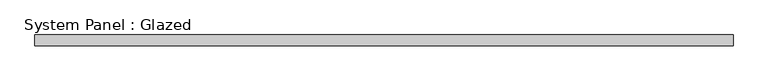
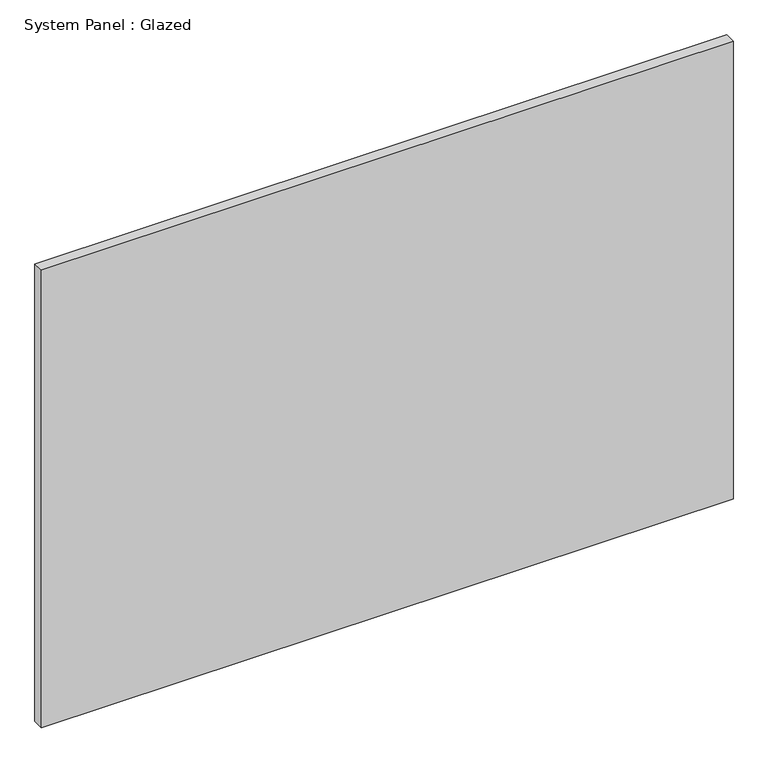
"""IFC4 building model written with IfcOpenShell, lengths in millimetres: plate geometry, System Panel : Glazed."""

import ifcopenshell
import ifcopenshell.guid

model = None  # the IFC model being written
_history = None  # IfcOwnerHistory: only IFC2X3 demands one
_inside = {}  # id of a spatial element -> (the spatial element, [elements in it])
_under = {}  # id of a project, library or spatial element -> (it, [spatial elements below it])
_declared = {}  # id of a project -> (the project, [libraries it declares])
_typed = {}  # id of a type object -> (the type object, [elements of that type])
_made_of = {}  # id of a material, layer set ... -> (it, [elements and type objects made of it])


def new_model(schema):
    """Start an empty IFC model of exactly this schema.

    Asked for "IFC4X3", IfcOpenShell would pick the latest addendum, in which some entities
    have other attributes; the version numbers below select the first issue.
    IFC2X3 requires an IfcOwnerHistory on every rooted entity: one is made here for all.
    """
    global model, _history
    if schema == "IFC4X3":
        model = ifcopenshell.file(schema_version=(4, 3, 0, 0))
    else:
        model = ifcopenshell.file(schema=schema)
    _inside.clear()
    _under.clear()
    _declared.clear()
    _typed.clear()
    _made_of.clear()
    _history = None
    if model.schema == "IFC2X3":
        org = make("IfcOrganization", Name="unknown")
        user = make(
            "IfcPersonAndOrganization",
            ThePerson=make("IfcPerson", FamilyName="unknown"),
            TheOrganization=org,
        )
        app = make(
            "IfcApplication",
            ApplicationDeveloper=org,
            Version="unknown",
            ApplicationFullName="unknown",
            ApplicationIdentifier="unknown",
        )
        _history = make(
            "IfcOwnerHistory",
            OwningUser=user,
            OwningApplication=app,
            ChangeAction="ADDED",
            CreationDate=0,
        )
    return model


def make(cls, **values):
    """One entity of the class cls with the attributes given. An attribute that is None is left unset."""
    return model.create_entity(
        cls, **{name: value for name, value in values.items() if value is not None}
    )


def rooted(cls, **values):
    """An entity with a GlobalId (a new one), such as an element, a storey or a relation."""
    return make(cls, GlobalId=ifcopenshell.guid.new(), OwnerHistory=_history, **values)


def si_unit(unit_type, name, prefix=None):
    """IfcSIUnit, for example si_unit("LENGTHUNIT", "METRE", prefix="MILLI")."""
    return make("IfcSIUnit", UnitType=unit_type, Prefix=prefix, Name=name)


def assignment(units):
    """IfcUnitAssignment: the units of a project."""
    return None if units is None else make("IfcUnitAssignment", Units=units)


def point(xyz):
    """IfcCartesianPoint."""
    return None if xyz is None else make("IfcCartesianPoint", Coordinates=xyz)


def direction(xyz):
    """IfcDirection."""
    return None if xyz is None else make("IfcDirection", DirectionRatios=xyz)


def frame(location, z_axis=None, x_axis=None):
    """IfcAxis2Placement3D, a coordinate frame: its origin and axes. An axis left out is left unset."""
    return make(
        "IfcAxis2Placement3D",
        Location=point(location),
        Axis=direction(z_axis),
        RefDirection=direction(x_axis),
    )


def origin():
    """The frame at (0, 0, 0) with its axes left unset."""
    return frame((0.0, 0.0, 0.0))


def origin_with_axes():
    """The frame at (0, 0, 0) with the z axis (0, 0, 1) and the x axis (1, 0, 0) written out."""
    return frame((0.0, 0.0, 0.0), z_axis=(0.0, 0.0, 1.0), x_axis=(1.0, 0.0, 0.0))


def place(relative_to, where):
    """IfcLocalPlacement: puts the frame where relative to a parent placement (None: the world)."""
    return make(
        "IfcLocalPlacement", PlacementRelTo=relative_to, RelativePlacement=where
    )


def context(
    kind, dimensions, precision=None, world=None, true_north=None, identifier=None
):
    """IfcGeometricRepresentationContext, for example the 3D "Model" context."""
    return make(
        "IfcGeometricRepresentationContext",
        ContextIdentifier=identifier,
        ContextType=kind,
        CoordinateSpaceDimension=dimensions,
        Precision=precision,
        WorldCoordinateSystem=world,
        TrueNorth=true_north,
    )


def project(units=None, contexts=None):
    """IfcProject with its units and contexts."""
    return rooted(
        "IfcProject",
        Name="project",
        RepresentationContexts=contexts,
        UnitsInContext=assignment(units),
    )


def spatial(cls, under=None, at=None, **own):
    """A site, building, storey or space (cls), placed at a placement, below another one or the project."""
    s = rooted(cls, ObjectPlacement=at, **own)
    if under is not None:
        _under.setdefault(under.id(), (under, []))[1].append(s)
    return s


def polyline(points):
    """IfcPolyline through the points."""
    return make("IfcPolyline", Points=[point(p) for p in points])


def outline(outer, holes=None, kind="AREA"):
    """IfcArbitraryClosedProfileDef: a profile drawn as a closed curve; with holes, ...WithVoids."""
    if holes is None:
        return make("IfcArbitraryClosedProfileDef", ProfileType=kind, OuterCurve=outer)
    return make(
        "IfcArbitraryProfileDefWithVoids",
        ProfileType=kind,
        OuterCurve=outer,
        InnerCurves=holes,
    )


def extrude(swept, where, along, depth):
    """IfcExtrudedAreaSolid: the profile swept, set in the frame where, extruded along a direction by depth."""
    return make(
        "IfcExtrudedAreaSolid",
        SweptArea=swept,
        Position=where,
        ExtrudedDirection=direction(along),
        Depth=depth,
    )


def shape(context_of_items, identifier, shape_type, items):
    """IfcShapeRepresentation: the items that make up one representation, for example the "Body"."""
    return make(
        "IfcShapeRepresentation",
        ContextOfItems=context_of_items,
        RepresentationIdentifier=identifier,
        RepresentationType=shape_type,
        Items=items,
    )


def source(mapping_origin, context_of_items, identifier, shape_type, items):
    """IfcRepresentationMap: a shape defined once, which mapped items show again and again."""
    return make(
        "IfcRepresentationMap",
        MappingOrigin=mapping_origin,
        MappedRepresentation=shape(context_of_items, identifier, shape_type, items),
    )


def transform(
    local_origin,
    x_axis=None,
    y_axis=None,
    z_axis=None,
    scale=None,
    scale2=None,
    scale3=None,
    uniform=True,
):
    """IfcCartesianTransformationOperator3D, or its non-uniform kind. x_axis, y_axis, z_axis: its Axis1, 2, 3."""
    if uniform:
        return make(
            "IfcCartesianTransformationOperator3D",
            Axis1=direction(x_axis),
            Axis2=direction(y_axis),
            LocalOrigin=point(local_origin),
            Scale=scale,
            Axis3=direction(z_axis),
        )
    return make(
        "IfcCartesianTransformationOperator3DnonUniform",
        Axis1=direction(x_axis),
        Axis2=direction(y_axis),
        LocalOrigin=point(local_origin),
        Scale=scale,
        Axis3=direction(z_axis),
        Scale2=scale2,
        Scale3=scale3,
    )


def mapped(mapping_source, mapping_target):
    """IfcMappedItem: shows the shape of a source again, moved by a transform."""
    return make(
        "IfcMappedItem", MappingSource=mapping_source, MappingTarget=mapping_target
    )


def made_of(thing, what):
    """Note that an element or type object is made of a material, layer set ...; save() writes the relation."""
    if what is not None:
        _made_of.setdefault(what.id(), (what, []))[1].append(thing)
    return thing


def element(
    cls,
    number,
    at=None,
    inside=None,
    cuts=None,
    type_object=None,
    material=None,
    context=None,
    identifier="Body",
    shape_type=None,
    held_by="IfcProductDefinitionShape",
    body=None,
    shapes=None,
    **own,
):
    """One element of the class cls, such as IfcWall. Its Tag is "e" and its number.

    at: its placement. inside: the storey or other place that contains it. cuts: it is an
    opening in that element (IfcRelVoidsElement). A single representation is given by context,
    identifier, shape_type and body (its items); several are given by shapes. held_by: the class
    of the entity that holds the representations. save() writes the other relations.
    """
    e = rooted(cls, Tag="e%d" % number, ObjectPlacement=at, **own)
    if body is not None:
        shapes = [shape(context, identifier, shape_type, body)]
    if shapes is not None:
        e.Representation = make(held_by, Representations=shapes)
    if inside is not None:
        _inside.setdefault(inside.id(), (inside, []))[1].append(e)
    if cuts is not None:
        rooted(
            "IfcRelVoidsElement", RelatingBuildingElement=cuts, RelatedOpeningElement=e
        )
    if type_object is not None:
        _typed.setdefault(type_object.id(), (type_object, []))[1].append(e)
    return made_of(e, material)


def aggregate(whole, parts):
    """IfcRelAggregates: a whole, such as a stair, and the parts it consists of."""
    return rooted("IfcRelAggregates", RelatingObject=whole, RelatedObjects=parts)


def save(model, path):
    """Write the relations noted so far, then the file.

    IfcRelAggregates (storeys below a building ...), IfcRelContainedInSpatialStructure (elements
    in a storey), IfcRelDefinesByType, IfcRelAssociatesMaterial and IfcRelDeclares: one each for
    every whole, place, type object, material and project.
    """
    for whole, parts in _under.values():
        aggregate(whole, parts)
    for where, things in _inside.values():
        rooted(
            "IfcRelContainedInSpatialStructure",
            RelatedElements=things,
            RelatingStructure=where,
        )
    for kind, things in _typed.values():
        rooted("IfcRelDefinesByType", RelatedObjects=things, RelatingType=kind)
    for what, things in _made_of.values():
        rooted("IfcRelAssociatesMaterial", RelatedObjects=things, RelatingMaterial=what)
    for by, libraries in _declared.values():
        rooted("IfcRelDeclares", RelatingContext=by, RelatedDefinitions=libraries)
    model.write(path)


def system_panel_glazed_f30ba6ae(model_context):
    return source(origin(), model_context, "Body", "SweptSolid", [
        extrude(outline(polyline([(803.275, -44.45), (-803.275, -44.45), (-803.275, -19.05), (803.275, -19.05), (803.275, -44.45)])), origin_with_axes(), (0.0, 0.0, 1.0), 1123.95),
    ])


if __name__ == "__main__":
    model = new_model("IFC4")
    model_context = context("Model", 3, world=origin())
    ifc_project = project(units=[si_unit("LENGTHUNIT", "METRE", prefix="MILLI")], contexts=[model_context])
    site = spatial("IfcSite", under=ifc_project)
    building = spatial("IfcBuilding", under=site)
    placement = place(None, origin())
    system_panel_glazed_shape = system_panel_glazed_f30ba6ae(model_context)
    element("IfcPlate", 1, ObjectType="System Panel : Glazed", at=placement, inside=building, context=model_context, shape_type="MappedRepresentation", body=[
        mapped(system_panel_glazed_shape, transform((0.0, 0.0, 0.0), x_axis=(1.0, 0.0, 0.0), y_axis=(0.0, 1.0, 0.0), z_axis=(0.0, 0.0, 1.0))),
    ])
    save(model, "model.ifc")
